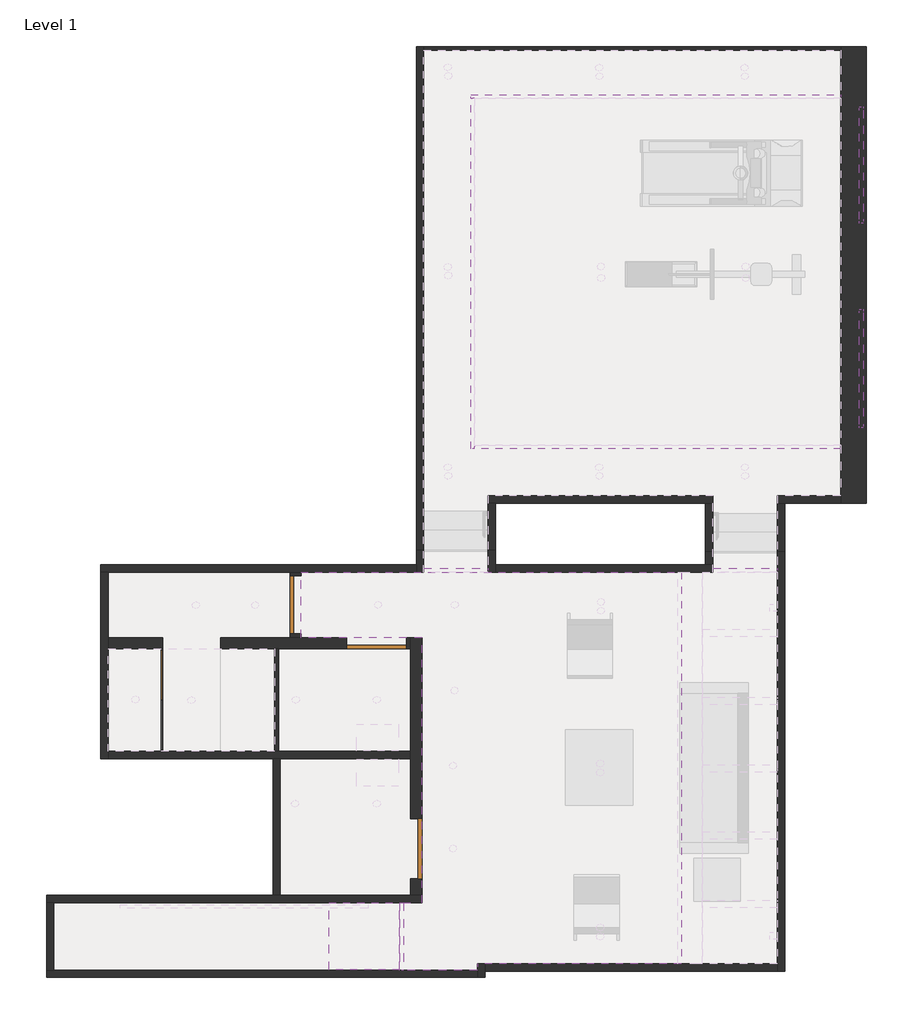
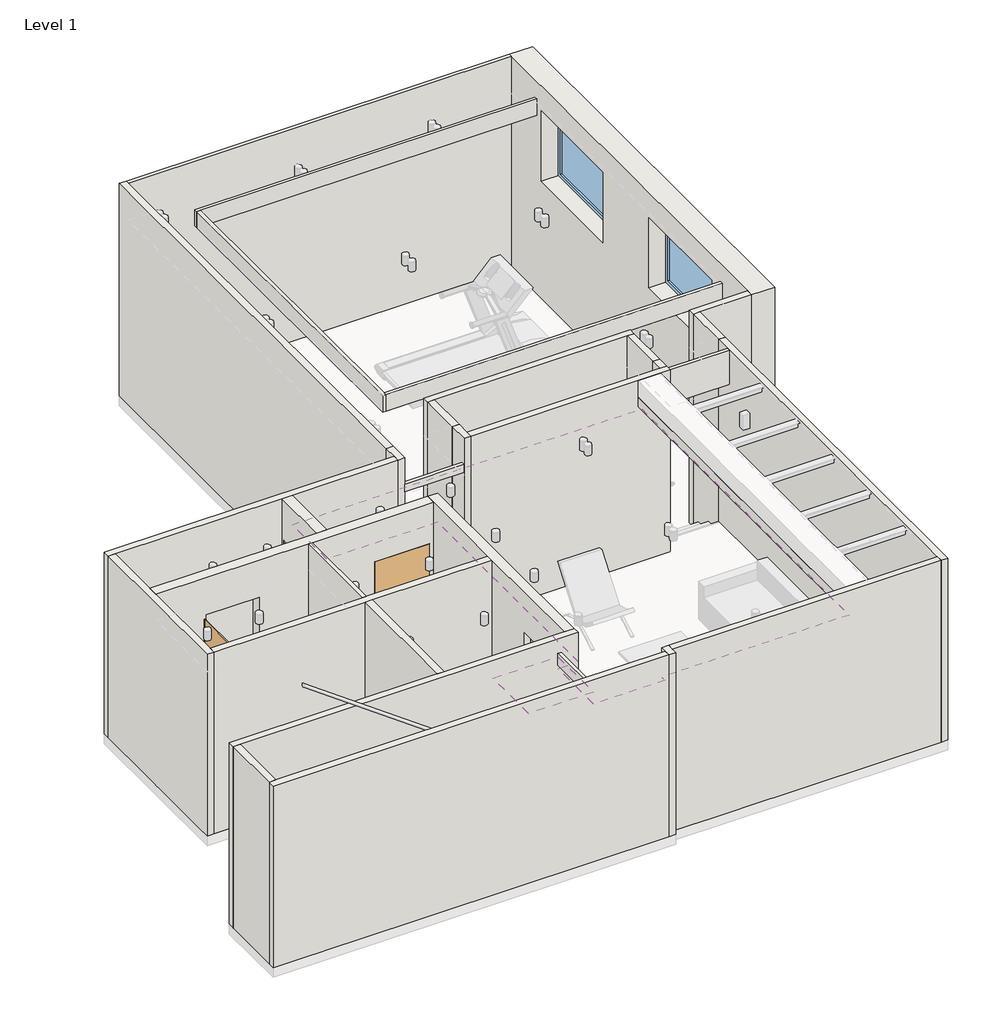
# One storey, part 1 of 2: 33 walls, 5 members, 4 doors, 2 coverings, 2 windows, 1 plate.
"""IFC4 building model written with IfcOpenShell, lengths in millimetres."""

from ifc_helpers import new_model, si_unit, point, frame, frame_2d, origin, origin_with_axes, place, context, project, spatial, polyline, circle_curve, trimmed, segment, composite_curve, outline, extrude, faceted_brep, transform, mapped, element, save
from components import door_01_type_1_045ead7d, door_01_type_1_33371314, door_01_type_2_38c6b91d, door_curtain_01_door_curtain_01_a0cef468, rectangular_mullion_20_x_20mm_65097463, rectangular_mullion_20_x_20mm_cb61bcfb, rectangular_mullion_5_x_5mm_bef206a9, system_panel_glazed_2_025f0f58, window_01_type_1_830a4720, window_01_type_2_452e2578

model = new_model("IFC4")

# Units and contexts
model_context = context("Model", 3, world=origin())
ifc_project = project(units=[si_unit("LENGTHUNIT", "METRE", prefix="MILLI")], contexts=[model_context])

# Site, building, storey
site = spatial("IfcSite", under=ifc_project)
building = spatial("IfcBuilding", under=site)
storey = spatial("IfcBuildingStorey", under=building, Name="Level 1", Elevation=0.0)

# Coverings
placement = place(None, origin())
element("IfcCovering", 1, ObjectType="Ceiling", at=placement, inside=storey, context=model_context, shape_type="SweptSolid", body=[
    extrude(outline(polyline([(-2620.2983634, 4538.2967998), (-2620.2983634, 3653.3787458), (-5069.9033731, 3653.3787458), (-5069.9033731, 4538.2967998), (-2620.2983634, 4538.2967998)]), holes=[composite_curve([segment(trimmed(circle_curve(frame_2d((-3090.2983634, 4093.3787458)), 50.0), [point((-3140.2983634, 4093.3787458))], [point((-3040.2983634, 4093.3787458))], True, "CARTESIAN"), True, "CONTINUOUS"), segment(trimmed(circle_curve(frame_2d((-3090.2983634, 4093.3787458)), 50.0), [point((-3040.2983634, 4093.3787458))], [point((-3140.2983634, 4093.3787458))], True, "CARTESIAN"), True, "CONTINUOUS")], self_intersect=False), composite_curve([segment(trimmed(circle_curve(frame_2d((-3890.2983634, 4093.3787458)), 50.0), [point((-3940.2983634, 4093.3787458))], [point((-3840.2983634, 4093.3787458))], True, "CARTESIAN"), True, "CONTINUOUS"), segment(trimmed(circle_curve(frame_2d((-3890.2983634, 4093.3787458)), 50.0), [point((-3840.2983634, 4093.3787458))], [point((-3940.2983634, 4093.3787458))], True, "CARTESIAN"), True, "CONTINUOUS")], self_intersect=False)]), frame((0.0, 0.0, 2845.0), z_axis=(0.0, 0.0, 1.0), x_axis=(1.0, 0.0, 0.0)), (0.0, 0.0, 1.0), 50.0),
    extrude(outline(polyline([(-92.4033731, -737.9532002), (-92.4033731, -822.9532002), (-1142.4033731, -822.9532002), (-1142.4033731, 85.8787458), (-842.4033731, 85.8787458), (-842.4033731, 3653.3787458), (-2470.2983634, 3653.3787458), (-2470.2983634, 4538.2967998), (2657.5966269, 4538.2967998), (2657.5966269, -737.9532002), (-92.4033731, -737.9532002)]), holes=[composite_curve([segment(trimmed(circle_curve(frame_2d((1572.5966269, 4138.2967998)), 50.0), [point((1522.5966269, 4138.2967998))], [point((1622.5966269, 4138.2967998))], True, "CARTESIAN"), True, "CONTINUOUS"), segment(trimmed(circle_curve(frame_2d((1572.5966269, 4138.2967998)), 50.0), [point((1622.5966269, 4138.2967998))], [point((1522.5966269, 4138.2967998))], True, "CARTESIAN"), True, "CONTINUOUS")], self_intersect=False), composite_curve([segment(trimmed(circle_curve(frame_2d((1572.5966269, 4018.2967998)), 50.0), [point((1522.5966269, 4018.2967998))], [point((1622.5966269, 4018.2967998))], True, "CARTESIAN"), True, "CONTINUOUS"), segment(trimmed(circle_curve(frame_2d((1572.5966269, 4018.2967998)), 50.0), [point((1622.5966269, 4018.2967998))], [point((1522.5966269, 4018.2967998))], True, "CARTESIAN"), True, "CONTINUOUS")], self_intersect=False), composite_curve([segment(trimmed(circle_curve(frame_2d((-397.4033731, 4098.2967998)), 50.0), [point((-447.4033731, 4098.2967998))], [point((-347.4033731, 4098.2967998))], True, "CARTESIAN"), True, "CONTINUOUS"), segment(trimmed(circle_curve(frame_2d((-397.4033731, 4098.2967998)), 50.0), [point((-347.4033731, 4098.2967998))], [point((-447.4033731, 4098.2967998))], True, "CARTESIAN"), True, "CONTINUOUS")], self_intersect=False), composite_curve([segment(trimmed(circle_curve(frame_2d((-1432.4033731, 4098.2967998)), 50.0), [point((-1482.4033731, 4098.2967998))], [point((-1382.4033731, 4098.2967998))], True, "CARTESIAN"), True, "CONTINUOUS"), segment(trimmed(circle_curve(frame_2d((-1432.4033731, 4098.2967998)), 50.0), [point((-1382.4033731, 4098.2967998))], [point((-1482.4033731, 4098.2967998))], True, "CARTESIAN"), True, "CONTINUOUS")], self_intersect=False), composite_curve([segment(trimmed(circle_curve(frame_2d((-402.4033731, 2943.3787458)), 50.0), [point((-452.4033731, 2943.3787458))], [point((-352.4033731, 2943.3787458))], True, "CARTESIAN"), True, "CONTINUOUS"), segment(trimmed(circle_curve(frame_2d((-402.4033731, 2943.3787458)), 50.0), [point((-352.4033731, 2943.3787458))], [point((-452.4033731, 2943.3787458))], True, "CARTESIAN"), True, "CONTINUOUS")], self_intersect=False), composite_curve([segment(trimmed(circle_curve(frame_2d((-422.4033731, 1930.1209843)), 50.0), [point((-472.4033731, 1930.1209843))], [point((-372.4033731, 1930.1209843))], True, "CARTESIAN"), True, "CONTINUOUS"), segment(trimmed(circle_curve(frame_2d((-422.4033731, 1930.1209843)), 50.0), [point((-372.4033731, 1930.1209843))], [point((-472.4033731, 1930.1209843))], True, "CARTESIAN"), True, "CONTINUOUS")], self_intersect=False), composite_curve([segment(trimmed(circle_curve(frame_2d((-422.4033731, 813.4642458)), 50.0), [point((-472.4033731, 813.4642458))], [point((-372.4033731, 813.4642458))], True, "CARTESIAN"), True, "CONTINUOUS"), segment(trimmed(circle_curve(frame_2d((-422.4033731, 813.4642458)), 50.0), [point((-372.4033731, 813.4642458))], [point((-472.4033731, 813.4642458))], True, "CARTESIAN"), True, "CONTINUOUS")], self_intersect=False), composite_curve([segment(trimmed(circle_curve(frame_2d((1562.5966269, 1958.2967998)), 50.0), [point((1512.5966269, 1958.2967998))], [point((1612.5966269, 1958.2967998))], True, "CARTESIAN"), True, "CONTINUOUS"), segment(trimmed(circle_curve(frame_2d((1562.5966269, 1958.2967998)), 50.0), [point((1612.5966269, 1958.2967998))], [point((1512.5966269, 1958.2967998))], True, "CARTESIAN"), True, "CONTINUOUS")], self_intersect=False), composite_curve([segment(trimmed(circle_curve(frame_2d((1562.5966269, 1838.2967998)), 50.0), [point((1512.5966269, 1838.2967998))], [point((1612.5966269, 1838.2967998))], True, "CARTESIAN"), True, "CONTINUOUS"), segment(trimmed(circle_curve(frame_2d((1562.5966269, 1838.2967998)), 50.0), [point((1612.5966269, 1838.2967998))], [point((1512.5966269, 1838.2967998))], True, "CARTESIAN"), True, "CONTINUOUS")], self_intersect=False), composite_curve([segment(trimmed(circle_curve(frame_2d((1562.5966269, -251.7032002)), 50.0), [point((1512.5966269, -251.7032002))], [point((1612.5966269, -251.7032002))], True, "CARTESIAN"), True, "CONTINUOUS"), segment(trimmed(circle_curve(frame_2d((1562.5966269, -251.7032002)), 50.0), [point((1612.5966269, -251.7032002))], [point((1512.5966269, -251.7032002))], True, "CARTESIAN"), True, "CONTINUOUS")], self_intersect=False), composite_curve([segment(trimmed(circle_curve(frame_2d((1562.5966269, -371.7032002)), 50.0), [point((1512.5966269, -371.7032002))], [point((1612.5966269, -371.7032002))], True, "CARTESIAN"), True, "CONTINUOUS"), segment(trimmed(circle_curve(frame_2d((1562.5966269, -371.7032002)), 50.0), [point((1612.5966269, -371.7032002))], [point((1512.5966269, -371.7032002))], True, "CARTESIAN"), True, "CONTINUOUS")], self_intersect=False)]), frame((0.0, 0.0, 2845.0), z_axis=(0.0, 0.0, 1.0), x_axis=(1.0, 0.0, 0.0)), (0.0, 0.0, 1.0), 50.0),
    extrude(outline(polyline([(-992.4033731, 3503.3787458), (-992.4033731, 2123.2967998), (-2775.2983634, 2123.2967998), (-2775.2983634, 3503.3787458), (-992.4033731, 3503.3787458)]), holes=[composite_curve([segment(trimmed(circle_curve(frame_2d((-1450.2983634, 2818.2967998)), 50.0), [point((-1500.2983634, 2818.2967998))], [point((-1400.2983634, 2818.2967998))], True, "CARTESIAN"), True, "CONTINUOUS"), segment(trimmed(circle_curve(frame_2d((-1450.2983634, 2818.2967998)), 50.0), [point((-1400.2983634, 2818.2967998))], [point((-1500.2983634, 2818.2967998))], True, "CARTESIAN"), True, "CONTINUOUS")], self_intersect=False), composite_curve([segment(trimmed(circle_curve(frame_2d((-2540.2983634, 2818.2967998)), 50.0), [point((-2590.2983634, 2818.2967998))], [point((-2490.2983634, 2818.2967998))], True, "CARTESIAN"), True, "CONTINUOUS"), segment(trimmed(circle_curve(frame_2d((-2540.2983634, 2818.2967998)), 50.0), [point((-2490.2983634, 2818.2967998))], [point((-2590.2983634, 2818.2967998))], True, "CARTESIAN"), True, "CONTINUOUS")], self_intersect=False)]), frame((0.0, 0.0, 2845.0), z_axis=(0.0, 0.0, 1.0), x_axis=(1.0, 0.0, 0.0)), (0.0, 0.0, 1.0), 50.0),
    extrude(outline(polyline([(-2750.2983634, 2023.2967998), (-992.4033731, 2023.2967998), (-992.4033731, 185.8787458), (-2750.2983634, 185.8787458), (-2750.2983634, 2023.2967998)]), holes=[composite_curve([segment(trimmed(circle_curve(frame_2d((-1450.2983634, 1418.2967998)), 50.0), [point((-1500.2983634, 1418.2967998))], [point((-1400.2983634, 1418.2967998))], True, "CARTESIAN"), True, "CONTINUOUS"), segment(trimmed(circle_curve(frame_2d((-1450.2983634, 1418.2967998)), 50.0), [point((-1400.2983634, 1418.2967998))], [point((-1500.2983634, 1418.2967998))], True, "CARTESIAN"), True, "CONTINUOUS")], self_intersect=False), composite_curve([segment(trimmed(circle_curve(frame_2d((-2552.4033731, 1418.2967998)), 50.0), [point((-2602.4033731, 1418.2967998))], [point((-2502.4033731, 1418.2967998))], True, "CARTESIAN"), True, "CONTINUOUS"), segment(trimmed(circle_curve(frame_2d((-2552.4033731, 1418.2967998)), 50.0), [point((-2502.4033731, 1418.2967998))], [point((-2602.4033731, 1418.2967998))], True, "CARTESIAN"), True, "CONTINUOUS")], self_intersect=False)]), frame((0.0, 0.0, 2845.0), z_axis=(0.0, 0.0, 1.0), x_axis=(1.0, 0.0, 0.0)), (0.0, 0.0, 1.0), 50.0),
])
element("IfcCovering", 2, ObjectType="Ceiling", at=placement, inside=storey, context=model_context, shape_type="SweptSolid", body=[
    extrude(outline(polyline([(-1142.4033731, 85.8787458), (-1142.4033731, -822.9532002), (-2093.0019919, -822.9532002), (-2093.0019919, 85.8787458), (-1142.4033731, 85.8787458)])), frame((0.0, 0.0, 3029.4421358), z_axis=(0.0, 0.0, 1.0), x_axis=(1.0, 0.0, 0.0)), (0.0, 0.0, 1.0), 50.0),
])

# Doors
door_01_type_1_shape = door_01_type_1_045ead7d(model_context)
element("IfcDoor", 3, ObjectType="Door_01 : Type 1", at=placement, inside=storey, context=model_context, shape_type="MappedRepresentation", body=[
    mapped(door_01_type_1_shape, transform((-917.4033731, 810.8787458, 480.0), x_axis=(0.0, -1.0, 0.0), y_axis=(1.0, 0.0, 0.0), z_axis=(0.0, 0.0, 1.0))),
])
door_01_type_1_2_shape = door_01_type_1_33371314(model_context)
element("IfcDoor", 4, ObjectType="Door_01 : Type 1", at=placement, inside=storey, context=model_context, shape_type="MappedRepresentation", body=[
    mapped(door_01_type_1_2_shape, transform((-1452.4033731, 3578.3787458, 480.0), x_axis=(1.0, 0.0, 0.0), y_axis=(0.0, 1.0, 0.0), z_axis=(0.0, 0.0, 1.0))),
])
door_01_type_2_shape = door_01_type_2_38c6b91d(model_context)
element("IfcDoor", 5, ObjectType="Door_01 : Type 2", at=placement, inside=storey, context=model_context, shape_type="MappedRepresentation", body=[
    mapped(door_01_type_2_shape, transform((-2545.2983634, 4100.8377728, 480.0), x_axis=(0.0, 1.0, 0.0), y_axis=(-1.0, 0.0, 0.0), z_axis=(0.0, 0.0, 1.0))),
])
door_curtain_01_door_curtain_01_shape = door_curtain_01_door_curtain_01_a0cef468(model_context)
element("IfcDoor", 6, ObjectType="Door_Curtain_01 : Door_Curtain_01", at=placement, inside=storey, context=model_context, shape_type="MappedRepresentation", body=[
    mapped(door_curtain_01_door_curtain_01_shape, transform((-4349.9033731, 3149.6082593, 500.0), x_axis=(0.0, -1.0, 0.0), y_axis=(1.0, 0.0, 0.0), z_axis=(0.0, 0.0, 1.0))),
])

# Members
rectangular_mullion_20_x_20mm_shape = rectangular_mullion_20_x_20mm_65097463(model_context)
element("IfcMember", 7, ObjectType="Rectangular Mullion : 20 x 20mm", at=placement, inside=storey, context=model_context, shape_type="MappedRepresentation", body=[
    mapped(rectangular_mullion_20_x_20mm_shape, transform((-4349.9033731, 2815.8377728, 480.0), x_axis=(0.0, 0.0, -1.0), y_axis=(1.0, 0.0, 0.0), z_axis=(0.0, -1.0, 0.0))),
])
element("IfcMember", 8, ObjectType="Rectangular Mullion : 20 x 20mm", at=placement, inside=storey, context=model_context, shape_type="MappedRepresentation", body=[
    mapped(rectangular_mullion_20_x_20mm_shape, transform((-4349.9033731, 2143.2967998, 480.0), x_axis=(0.0, 0.0, -1.0), y_axis=(1.0, 0.0, 0.0), z_axis=(0.0, -1.0, 0.0))),
])
rectangular_mullion_20_x_20mm_2_shape = rectangular_mullion_20_x_20mm_cb61bcfb(model_context)
element("IfcMember", 9, ObjectType="Rectangular Mullion : 20 x 20mm", at=placement, inside=storey, context=model_context, shape_type="MappedRepresentation", body=[
    mapped(rectangular_mullion_20_x_20mm_2_shape, transform((-4349.9033731, 3503.3787458, 480.0), x_axis=(0.0, 1.0, 0.0), y_axis=(1.0, 0.0, 0.0), z_axis=(0.0, 0.0, -1.0))),
])
element("IfcMember", 10, ObjectType="Rectangular Mullion : 20 x 20mm", at=placement, inside=storey, context=model_context, shape_type="MappedRepresentation", body=[
    mapped(rectangular_mullion_20_x_20mm_2_shape, transform((-4349.9033731, 2123.2967998, 2664.8011538), x_axis=(0.0, -1.0, 0.0), y_axis=(1.0, 0.0, 0.0), z_axis=(0.0, 0.0, 1.0))),
])
rectangular_mullion_5_x_5mm_shape = rectangular_mullion_5_x_5mm_bef206a9(model_context)
element("IfcMember", 11, ObjectType="Rectangular Mullion : 5 x 5mm", at=placement, inside=storey, context=model_context, shape_type="MappedRepresentation", body=[
    mapped(rectangular_mullion_5_x_5mm_shape, transform((-4349.9033731, 2813.3377728, 480.0), x_axis=(0.0, 1.0, 0.0), y_axis=(1.0, 0.0, 0.0), z_axis=(0.0, 0.0, -1.0))),
])

# Plate
system_panel_glazed_2_shape = system_panel_glazed_2_025f0f58(model_context)
element("IfcPlate", 12, ObjectType="System Panel : Glazed 2", at=placement, inside=storey, context=model_context, shape_type="MappedRepresentation", body=[
    mapped(system_panel_glazed_2_shape, transform((-4349.9033731, 2477.0672863, 500.0), x_axis=(0.0, 1.0, 0.0), y_axis=(-1.0, 0.0, 0.0), z_axis=(0.0, 0.0, 1.0))),
])

# Walls
element("IfcWall", 13, ObjectType="Generic - Ext 100mm", at=placement, inside=storey, context=model_context, shape_type="Brep", body=[
    faceted_brep([(4807.5966269, 5566.9439115, 0.0), (3950.0966269, 5566.9439115, 0.0), (3950.0966269, 5566.9439115, 3300.0), (4807.5966269, 5566.9439115, 3300.0), (4807.5966269, 5466.9439115, 0.0), (4807.5966269, 5466.9439115, 3300.0), (4050.0966269, 5466.9439115, 3300.0), (3950.0966269, 5466.9439115, 3300.0), (3950.0966269, 5466.9439115, 0.0), (4050.0966269, 5466.9439115, 0.0)], [[[0, 1, 2, 3]], [[4, 5, 6, 7, 8, 9]], [[1, 0, 4, 9, 8]], [[3, 2, 7, 6, 5]], [[0, 3, 5, 4]], [[2, 1, 8, 7]]]),
])
element("IfcWall", 14, ObjectType="Generic - Ext 100mm", at=placement, inside=storey, context=model_context, shape_type="Brep", body=[
    faceted_brep([(3950.0966269, 5466.9439115, 0.0), (3950.0966269, 4817.0467998, 0.0), (3950.0966269, 4817.0467998, 480.0), (3950.0966269, 4817.0467998, 3300.0), (3950.0966269, 5466.9439115, 3300.0), (4050.0966269, 5466.9439115, 0.0), (4050.0966269, 5466.9439115, 3300.0), (4050.0966269, 4817.0467998, 3300.0), (4050.0966269, 4817.0467998, 480.0), (4050.0966269, 4817.0467998, 0.0)], [[[0, 1, 2, 3, 4]], [[5, 6, 7, 8, 9]], [[1, 0, 5, 9]], [[3, 2, 1, 9, 8, 7]], [[4, 3, 7, 6]], [[0, 4, 6, 5]]]),
])
element("IfcWall", 15, ObjectType="Generic - Ext 100mm", at=placement, inside=storey, context=model_context, shape_type="SweptSolid", body=[
    extrude(outline(polyline([(7.5966269, -737.9532002), (3950.0966269, -737.9532002), (3950.0966269, -837.9532002), (7.5966269, -837.9532002), (7.5966269, -737.9532002)])), frame((0.0, 0.0, 481.2784756), z_axis=(0.0, 0.0, 1.0), x_axis=(1.0, 0.0, 0.0)), (0.0, 0.0, 1.0), 2818.7215244),
])
element("IfcWall", 16, ObjectType="Generic - Ext 100mm", at=placement, inside=storey, context=model_context, shape_type="Brep", body=[
    faceted_brep([(-92.4033731, -737.9532002, 480.0), (-92.4033731, -822.9532002, 480.0), (-92.4033731, -922.9532002, 480.0), (-92.4033731, -922.9532002, 3300.0), (-92.4033731, -822.9532002, 3300.0), (-92.4033731, -737.9532002, 3300.0), (7.5966269, -737.9532002, 480.0), (7.5966269, -737.9532002, 481.2784756), (7.5966269, -737.9532002, 3300.0), (7.5966269, -837.9532002, 3300.0), (7.5966269, -922.9532002, 3300.0), (7.5966269, -922.9532002, 480.0)], [[[0, 1, 2, 3, 4, 5]], [[6, 7, 8, 9, 10, 11]], [[2, 1, 0, 6, 11]], [[5, 4, 3, 10, 9, 8]], [[0, 5, 8, 7, 6]], [[3, 2, 11, 10]]]),
])
element("IfcWall", 17, ObjectType="Generic - Ext 100mm", at=placement, inside=storey, context=model_context, shape_type="Brep", body=[
    faceted_brep([(-92.4033731, -822.9532002, 480.0), (-5803.0019919, -822.9532002, 480.0), (-5903.0019919, -822.9532002, 480.0), (-5903.0019919, -822.9532002, 3300.0), (-5803.0019919, -822.9532002, 3300.0), (-2233.0019919, -822.9532002, 3300.0), (-2093.0019919, -822.9532002, 3300.0), (-92.4033731, -822.9532002, 3300.0), (-92.4033731, -922.9532002, 480.0), (-92.4033731, -922.9532002, 3300.0), (-5903.0019919, -922.9532002, 3300.0), (-5903.0019919, -922.9532002, 480.0)], [[[0, 1, 2, 3, 4, 5, 6, 7]], [[8, 9, 10, 11]], [[2, 1, 0, 8, 11]], [[7, 6, 5, 4, 3, 10, 9]], [[0, 7, 9, 8]], [[3, 2, 11, 10]]]),
])
element("IfcWall", 18, ObjectType="Generic - Ext 100mm", at=placement, inside=storey, context=model_context, shape_type="Brep", body=[
    faceted_brep([(-917.4033731, 11621.9439115, 0.0), (-917.4033731, 4837.0467998, 0.0), (-917.4033731, 4837.0467998, 480.0), (-917.4033731, 4837.0467998, 3300.0), (-917.4033731, 11621.9439115, 3300.0), (-817.4033731, 11621.9439115, 0.0), (-817.4033731, 11621.9439115, 3300.0), (-817.4033731, 11571.9439115, 3300.0), (-817.4033731, 4837.0467998, 3300.0), (-817.4033731, 4837.0467998, 480.0), (-817.4033731, 4837.0467998, 0.0), (-817.4033731, 11571.9439115, 0.0)], [[[0, 1, 2, 3, 4]], [[5, 6, 7, 8, 9, 10, 11]], [[1, 0, 5, 11, 10]], [[3, 2, 1, 10, 9, 8]], [[4, 3, 8, 7, 6]], [[0, 4, 6, 5]]]),
])
element("IfcWall", 19, ObjectType="Generic - Ext 100mm", at=placement, inside=storey, context=model_context, shape_type="Brep", body=[
    faceted_brep([(-917.4033731, 4638.2967998, 3300.0), (-917.4033731, 4638.2967998, 480.0), (-5169.9033731, 4638.2967998, 480.0), (-5169.9033731, 4638.2967998, 3300.0), (-917.4033731, 4538.2967998, 480.0), (-917.4033731, 4538.2967998, 3300.0), (-2470.2983634, 4538.2967998, 3300.0), (-2620.2983634, 4538.2967998, 3300.0), (-5069.9033731, 4538.2967998, 3300.0), (-5169.9033731, 4538.2967998, 3300.0), (-5169.9033731, 4538.2967998, 480.0), (-5069.9033731, 4538.2967998, 480.0), (-2620.2983634, 4538.2967998, 480.0), (-2470.2983634, 4538.2967998, 480.0)], [[[0, 1, 2, 3]], [[4, 5, 6, 7, 8, 9, 10, 11, 12, 13]], [[2, 1, 4, 13, 12, 11, 10]], [[0, 3, 9, 8, 7, 6, 5]], [[3, 2, 10, 9]], [[0, 5, 4, 1]]]),
])
element("IfcWall", 20, ObjectType="Generic - Ext 100mm", at=placement, inside=storey, context=model_context, shape_type="Brep", body=[
    faceted_brep([(-5169.9033731, 4538.2967998, 480.0), (-5169.9033731, 2023.2967998, 480.0), (-5169.9033731, 2023.2967998, 3300.0), (-5169.9033731, 4538.2967998, 3300.0), (-5069.9033731, 4538.2967998, 480.0), (-5069.9033731, 4538.2967998, 3300.0), (-5069.9033731, 3653.3787458, 3300.0), (-5069.9033731, 3503.3787458, 3300.0), (-5069.9033731, 2123.2967998, 3300.0), (-5069.9033731, 2023.2967998, 3300.0), (-5069.9033731, 2023.2967998, 480.0), (-5069.9033731, 2123.2967998, 480.0), (-5069.9033731, 3503.3787458, 480.0), (-5069.9033731, 3653.3787458, 480.0)], [[[0, 1, 2, 3]], [[4, 5, 6, 7, 8, 9, 10, 11, 12, 13]], [[1, 0, 4, 13, 12, 11, 10]], [[3, 2, 9, 8, 7, 6, 5]], [[0, 3, 5, 4]], [[2, 1, 10, 9]]]),
])
element("IfcWall", 21, ObjectType="Generic - Ext 100mm", at=placement, inside=storey, context=model_context, shape_type="Brep", body=[
    faceted_brep([(-5069.9033731, 2023.2967998, 480.0), (-2850.2983634, 2023.2967998, 480.0), (-2750.2983634, 2023.2967998, 480.0), (-992.4033731, 2023.2967998, 480.0), (-992.4033731, 2023.2967998, 3300.0), (-2750.2983634, 2023.2967998, 3300.0), (-2850.2983634, 2023.2967998, 3300.0), (-5069.9033731, 2023.2967998, 3300.0), (-5069.9033731, 2123.2967998, 480.0), (-5069.9033731, 2123.2967998, 3300.0), (-2825.2983634, 2123.2967998, 3300.0), (-2775.2983634, 2123.2967998, 3300.0), (-992.4033731, 2123.2967998, 3300.0), (-992.4033731, 2123.2967998, 480.0), (-2775.2983634, 2123.2967998, 480.0), (-2825.2983634, 2123.2967998, 480.0)], [[[0, 1, 2, 3, 4, 5, 6, 7]], [[8, 9, 10, 11, 12, 13, 14, 15]], [[3, 2, 1, 0, 8, 15, 14, 13]], [[7, 6, 5, 4, 12, 11, 10, 9]], [[0, 7, 9, 8]], [[4, 3, 13, 12]]]),
])
element("IfcWall", 22, ObjectType="Generic - Ext 100mm", at=placement, inside=storey, context=model_context, shape_type="Brep", body=[
    faceted_brep([(-917.4033731, 4837.0467998, 480.0), (-917.4033731, 4638.2967998, 480.0), (-917.4033731, 4538.2967998, 480.0), (-917.4033731, 4538.2967998, 3300.0), (-917.4033731, 4638.2967998, 3300.0), (-917.4033731, 4837.0467998, 3300.0), (-817.4033731, 4837.0467998, 480.0), (-817.4033731, 4837.0467998, 3300.0), (-817.4033731, 4538.2967998, 3300.0), (-817.4033731, 4538.2967998, 2895.0), (-817.4033731, 4538.2967998, 2776.25), (-817.4033731, 4538.2967998, 480.0)], [[[0, 1, 2, 3, 4, 5]], [[6, 7, 8, 9, 10, 11]], [[2, 1, 0, 6, 11]], [[5, 4, 3, 8, 7]], [[0, 5, 7, 6]], [[2, 11, 10, 9, 8, 3]]]),
])
element("IfcWall", 23, ObjectType="Generic - Ext 100mm", at=placement, inside=storey, context=model_context, shape_type="Brep", body=[
    faceted_brep([(3950.0966269, 4817.0467998, 480.0), (3950.0966269, -837.9532002, 480.0), (3950.0966269, -837.9532002, 481.2784756), (3950.0966269, -837.9532002, 3300.0), (3950.0966269, -737.9532002, 3300.0), (3950.0966269, 4538.2967998, 3300.0), (3950.0966269, 4588.2967998, 3300.0), (3950.0966269, 4817.0467998, 3300.0), (4050.0966269, 4817.0467998, 480.0), (4050.0966269, 4817.0467998, 3300.0), (4050.0966269, -837.9532002, 3300.0), (4050.0966269, -837.9532002, 480.0)], [[[0, 1, 2, 3, 4, 5, 6, 7]], [[8, 9, 10, 11]], [[1, 0, 8, 11]], [[7, 6, 5, 4, 3, 10, 9]], [[0, 7, 9, 8]], [[3, 2, 1, 11, 10]]]),
])
element("IfcWall", 24, ObjectType="Generic - Ext 100mm", at=placement, inside=storey, context=model_context, shape_type="SweptSolid", body=[
    extrude(outline(polyline([(-2850.2983634, 185.8787458), (-2850.2983634, 2023.2967998), (-2750.2983634, 2023.2967998), (-2750.2983634, 185.8787458), (-2850.2983634, 185.8787458)])), frame((0.0, 0.0, 480.0), z_axis=(0.0, 0.0, 1.0), x_axis=(1.0, 0.0, 0.0)), (0.0, 0.0, 1.0), 2820.0),
])
element("IfcWall", 25, ObjectType="Generic - Ext 100mm", at=placement, inside=storey, context=model_context, shape_type="SweptSolid", body=[
    extrude(outline(polyline([(-5803.0019919, 85.8787458), (-5803.0019919, -822.9532002), (-5903.0019919, -822.9532002), (-5903.0019919, 85.8787458), (-5803.0019919, 85.8787458)])), frame((0.0, 0.0, 480.0), z_axis=(0.0, 0.0, 1.0), x_axis=(1.0, 0.0, 0.0)), (0.0, 0.0, 1.0), 2820.0),
])
element("IfcWall", 26, ObjectType="Generic - Ext 340mm", at=placement, inside=storey, context=model_context, shape_type="Brep", body=[
    faceted_brep([(4807.5966269, 11621.9439115, 0.0), (4807.5966269, 11571.9439115, 0.0), (4807.5966269, 5566.9439115, 0.0), (4807.5966269, 5466.9439115, 0.0), (4807.5966269, 5466.9439115, 3300.0), (4807.5966269, 5566.9439115, 3300.0), (4807.5966269, 11571.9439115, 3300.0), (4807.5966269, 11621.9439115, 3300.0), (4807.5966269, 10812.4808045, 1820.0), (4807.5966269, 10812.4808045, 2910.0), (4807.5966269, 9242.4808045, 2910.0), (4807.5966269, 9242.4808045, 1820.0), (4807.5966269, 8082.4808045, 1820.0), (4807.5966269, 8082.4808045, 2910.0), (4807.5966269, 6482.4808045, 2910.0), (4807.5966269, 6482.4808045, 1820.0), (5147.5966269, 5466.9439115, 0.0), (5147.5966269, 11621.9439115, 0.0), (5147.5966269, 11621.9439115, 3300.0), (5147.5966269, 5466.9439115, 3300.0), (5147.5966269, 10812.4808045, 2910.0), (5147.5966269, 10812.4808045, 1820.0), (5147.5966269, 9242.4808045, 1820.0), (5147.5966269, 9242.4808045, 2910.0), (5147.5966269, 8082.4808045, 2910.0), (5147.5966269, 8082.4808045, 1820.0), (5147.5966269, 6482.4808045, 1820.0), (5147.5966269, 6482.4808045, 2910.0)], [[[0, 1, 2, 3, 4, 5, 6, 7], [8, 9, 10, 11], [12, 13, 14, 15]], [[16, 17, 18, 19], [20, 21, 22, 23], [24, 25, 26, 27]], [[3, 2, 1, 0, 17, 16]], [[7, 6, 5, 4, 19, 18]], [[4, 3, 16, 19]], [[20, 9, 8, 21]], [[21, 8, 11, 22]], [[22, 11, 10, 23]], [[9, 20, 23, 10]], [[25, 24, 13, 12]], [[26, 25, 12, 15]], [[27, 26, 15, 14]], [[24, 27, 14, 13]], [[0, 7, 18, 17]]]),
])
element("IfcWall", 27, ObjectType="Generic - Int 100mm", at=placement, inside=storey, context=model_context, shape_type="Brep", body=[
    faceted_brep([(-5903.0019919, 85.8787458, 480.0), (-5803.0019919, 85.8787458, 480.0), (-842.4033731, 85.8787458, 480.0), (-842.4033731, 85.8787458, 3300.0), (-5803.0019919, 85.8787458, 3300.0), (-5903.0019919, 85.8787458, 3300.0), (-5903.0019919, 185.8787458, 480.0), (-5903.0019919, 185.8787458, 3300.0), (-2850.2983634, 185.8787458, 3300.0), (-2750.2983634, 185.8787458, 3300.0), (-992.4033731, 185.8787458, 3300.0), (-842.4033731, 185.8787458, 3300.0), (-842.4033731, 185.8787458, 480.0), (-992.4033731, 185.8787458, 480.0), (-2750.2983634, 185.8787458, 480.0), (-2850.2983634, 185.8787458, 480.0)], [[[0, 1, 2, 3, 4, 5]], [[6, 7, 8, 9, 10, 11, 12, 13, 14, 15]], [[2, 1, 0, 6, 15, 14, 13, 12]], [[5, 4, 3, 11, 10, 9, 8, 7]], [[3, 2, 12, 11]], [[0, 5, 7, 6]]]),
])
element("IfcWall", 28, ObjectType="Generic - Int 100mm", at=placement, inside=storey, context=model_context, shape_type="Brep", body=[
    faceted_brep([(3082.5966269, 5566.9439115, 0.0), (52.5966269, 5566.9439115, 0.0), (52.5966269, 5566.9439115, 3300.0), (3082.5966269, 5566.9439115, 3300.0), (3082.5966269, 5466.9439115, 0.0), (3082.5966269, 5466.9439115, 3300.0), (2982.5966269, 5466.9439115, 3300.0), (152.5966269, 5466.9439115, 3300.0), (52.5966269, 5466.9439115, 3300.0), (52.5966269, 5466.9439115, 0.0), (152.5966269, 5466.9439115, 0.0), (2982.5966269, 5466.9439115, 0.0)], [[[0, 1, 2, 3]], [[4, 5, 6, 7, 8, 9, 10, 11]], [[1, 0, 4, 11, 10, 9]], [[3, 2, 8, 7, 6, 5]], [[2, 1, 9, 8]], [[0, 3, 5, 4]]]),
])
element("IfcWall", 29, ObjectType="Generic - Int 100mm", at=placement, inside=storey, context=model_context, shape_type="Brep", body=[
    faceted_brep([(52.5966269, 5466.9439115, 0.0), (52.5966269, 4837.0467998, 0.0), (52.5966269, 4837.0467998, 480.0), (52.5966269, 4837.0467998, 3300.0), (52.5966269, 5466.9439115, 3300.0), (152.5966269, 5466.9439115, 0.0), (152.5966269, 5466.9439115, 3300.0), (152.5966269, 4837.0467998, 3300.0), (152.5966269, 4837.0467998, 480.0), (152.5966269, 4837.0467998, 0.0)], [[[0, 1, 2, 3, 4]], [[5, 6, 7, 8, 9]], [[1, 0, 5, 9]], [[3, 2, 1, 9, 8, 7]], [[4, 3, 7, 6]], [[0, 4, 6, 5]]]),
])
element("IfcWall", 30, ObjectType="Generic - Int 100mm", at=placement, inside=storey, context=model_context, shape_type="Brep", body=[
    faceted_brep([(152.5966269, 4538.2967998, 3300.0), (152.5966269, 4538.2967998, 480.0), (3082.5966269, 4538.2967998, 480.0), (3082.5966269, 4538.2967998, 2776.25), (3082.5966269, 4538.2967998, 3300.0), (152.5966269, 4638.2967998, 480.0), (152.5966269, 4638.2967998, 3300.0), (2982.5966269, 4638.2967998, 3300.0), (3082.5966269, 4638.2967998, 3300.0), (3082.5966269, 4638.2967998, 480.0), (2982.5966269, 4638.2967998, 480.0), (3082.5966269, 4588.2967998, 3300.0)], [[[0, 1, 2, 3, 4]], [[5, 6, 7, 8, 9, 10]], [[2, 1, 5, 10, 9]], [[0, 4, 11, 8, 7, 6]], [[0, 6, 5, 1]], [[2, 9, 8, 11, 4, 3]]]),
])
element("IfcWall", 31, ObjectType="Generic - Int 100mm", at=placement, inside=storey, context=model_context, shape_type="SweptSolid", body=[
    extrude(outline(polyline([(3082.5966269, 4817.0467998), (3082.5966269, 4638.2967998), (2982.5966269, 4638.2967998), (2982.5966269, 4817.0467998), (3082.5966269, 4817.0467998)])), frame((0.0, 0.0, 480.0), z_axis=(0.0, 0.0, 1.0), x_axis=(1.0, 0.0, 0.0)), (0.0, 0.0, 1.0), 2820.0),
])
element("IfcWall", 32, ObjectType="Generic - Int 100mm", at=placement, inside=storey, context=model_context, shape_type="Brep", body=[
    faceted_brep([(52.5966269, 4837.0467998, 480.0), (52.5966269, 4538.2967998, 480.0), (52.5966269, 4538.2967998, 2776.25), (52.5966269, 4538.2967998, 2895.0), (52.5966269, 4538.2967998, 3300.0), (52.5966269, 4837.0467998, 3300.0), (152.5966269, 4837.0467998, 480.0), (152.5966269, 4837.0467998, 3300.0), (152.5966269, 4638.2967998, 3300.0), (152.5966269, 4538.2967998, 3300.0), (152.5966269, 4538.2967998, 480.0), (152.5966269, 4638.2967998, 480.0)], [[[0, 1, 2, 3, 4, 5]], [[6, 7, 8, 9, 10, 11]], [[1, 0, 6, 11, 10]], [[5, 4, 9, 8, 7]], [[0, 5, 7, 6]], [[1, 10, 9, 4, 3, 2]]]),
])
element("IfcWall", 33, ObjectType="Generic - Int 100mm", at=placement, inside=storey, context=model_context, shape_type="Brep", body=[
    faceted_brep([(3082.5966269, 4817.0467998, 0.0), (3082.5966269, 5466.9439115, 0.0), (3082.5966269, 5466.9439115, 3300.0), (3082.5966269, 4817.0467998, 3300.0), (3082.5966269, 4817.0467998, 480.0), (2982.5966269, 4817.0467998, 0.0), (2982.5966269, 4817.0467998, 480.0), (2982.5966269, 4817.0467998, 3300.0), (2982.5966269, 5466.9439115, 3300.0), (2982.5966269, 5466.9439115, 0.0)], [[[0, 1, 2, 3, 4]], [[5, 6, 7, 8, 9]], [[1, 0, 5, 9]], [[3, 2, 8, 7]], [[0, 4, 3, 7, 6, 5]], [[2, 1, 9, 8]]]),
])
element("IfcWall", 34, ObjectType="Generic - Int 150mm", at=placement, inside=storey, context=model_context, shape_type="Brep", body=[
    faceted_brep([(-842.4033731, 3653.3787458, 3300.0), (-842.4033731, 185.8787458, 3300.0), (-842.4033731, 185.8787458, 480.0), (-842.4033731, 405.8787458, 480.0), (-842.4033731, 405.8787458, 2680.0), (-842.4033731, 1215.8787458, 2680.0), (-842.4033731, 1215.8787458, 480.0), (-842.4033731, 3653.3787458, 480.0), (-992.4033731, 185.8787458, 3300.0), (-992.4033731, 2023.2967998, 3300.0), (-992.4033731, 2123.2967998, 3300.0), (-992.4033731, 3503.3787458, 3300.0), (-992.4033731, 3653.3787458, 3300.0), (-992.4033731, 3653.3787458, 480.0), (-992.4033731, 3503.3787458, 480.0), (-992.4033731, 2123.2967998, 480.0), (-992.4033731, 2023.2967998, 480.0), (-992.4033731, 1215.8787458, 480.0), (-992.4033731, 1215.8787458, 2680.0), (-992.4033731, 405.8787458, 2680.0), (-992.4033731, 405.8787458, 480.0), (-992.4033731, 185.8787458, 480.0)], [[[0, 1, 2, 3, 4, 5, 6, 7]], [[8, 9, 10, 11, 12, 13, 14, 15, 16, 17, 18, 19, 20, 21]], [[2, 21, 20, 3]], [[13, 7, 6, 17, 16, 15, 14]], [[1, 0, 12, 11, 10, 9, 8]], [[2, 1, 8, 21]], [[0, 7, 13, 12]], [[19, 4, 3, 20]], [[4, 19, 18, 5]], [[5, 18, 17, 6]]]),
])
element("IfcWall", 35, ObjectType="Generic - Int 150mm", at=placement, inside=storey, context=model_context, shape_type="Brep", body=[
    faceted_brep([(-5069.9033731, 3653.3787458, 3300.0), (-2620.2983634, 3653.3787458, 3300.0), (-2470.2983634, 3653.3787458, 3300.0), (-992.4033731, 3653.3787458, 3300.0), (-992.4033731, 3653.3787458, 480.0), (-1047.4033731, 3653.3787458, 480.0), (-1047.4033731, 3653.3787458, 2680.0), (-1857.4033731, 3653.3787458, 2680.0), (-1857.4033731, 3653.3787458, 480.0), (-2470.2983634, 3653.3787458, 480.0), (-2620.2983634, 3653.3787458, 480.0), (-3553.7497862, 3653.3787458, 480.0), (-3553.7497862, 3653.3787458, 2726.3809147), (-4337.4007708, 3653.3787458, 2726.3809147), (-4337.4007708, 3653.3787458, 480.0), (-5069.9033731, 3653.3787458, 480.0), (-992.4033731, 3503.3787458, 3300.0), (-2775.2983634, 3503.3787458, 3300.0), (-2825.2983634, 3503.3787458, 3300.0), (-5069.9033731, 3503.3787458, 3300.0), (-5069.9033731, 3503.3787458, 480.0), (-4337.4007708, 3503.3787458, 480.0), (-4337.4007708, 3503.3787458, 2726.3809147), (-3553.7497862, 3503.3787458, 2726.3809147), (-3553.7497862, 3503.3787458, 480.0), (-2825.2983634, 3503.3787458, 480.0), (-2775.2983634, 3503.3787458, 480.0), (-1857.4033731, 3503.3787458, 480.0), (-1857.4033731, 3503.3787458, 2680.0), (-1047.4033731, 3503.3787458, 2680.0), (-1047.4033731, 3503.3787458, 480.0), (-992.4033731, 3503.3787458, 480.0)], [[[0, 1, 2, 3, 4, 5, 6, 7, 8, 9, 10, 11, 12, 13, 14, 15]], [[16, 17, 18, 19, 20, 21, 22, 23, 24, 25, 26, 27, 28, 29, 30, 31]], [[4, 3, 16, 31]], [[0, 15, 20, 19]], [[29, 6, 5, 30]], [[6, 29, 28, 7]], [[7, 28, 27, 8]], [[4, 31, 30, 5]], [[24, 11, 10, 9, 8, 27, 26, 25]], [[3, 2, 1, 0, 19, 18, 17, 16]], [[12, 11, 24, 23]], [[13, 12, 23, 22]], [[14, 13, 22, 21]], [[15, 14, 21, 20]]]),
])
element("IfcWall", 36, ObjectType="Generic - Int 150mm", at=placement, inside=storey, context=model_context, shape_type="SweptSolid", body=[
    extrude(outline(polyline([(3653.3787458, 3300.0), (4538.2967998, 3300.0), (4538.2967998, 480.0), (4490.8377728, 480.0), (4490.8377728, 2680.0), (3710.8377728, 2680.0), (3710.8377728, 480.0), (3653.3787458, 480.0), (3653.3787458, 3300.0)])), frame((-2620.2983634, 0.0, 0.0), z_axis=(1.0, 0.0, 0.0), x_axis=(0.0, 1.0, 0.0)), (0.0, 0.0, 1.0), 150.0),
])
element("IfcWall", 37, ObjectType="Generic - Int 50mm", at=placement, inside=storey, context=model_context, shape_type="SweptSolid", body=[
    extrude(outline(polyline([(-2825.2983634, 2123.2967998), (-2825.2983634, 3503.3787458), (-2775.2983634, 3503.3787458), (-2775.2983634, 2123.2967998), (-2825.2983634, 2123.2967998)])), frame((0.0, 0.0, 480.0), z_axis=(0.0, 0.0, 1.0), x_axis=(1.0, 0.0, 0.0)), (0.0, 0.0, 1.0), 2820.0),
])
element("IfcWall", 38, ObjectType="Generic - Int 50mm", at=placement, inside=storey, context=model_context, shape_type="Brep", body=[
    faceted_brep([(4807.5966269, 10971.9439115, 2776.3), (-182.4033731, 10971.9439115, 2776.3), (-182.4033731, 10971.9439115, 3030.1), (4807.5966269, 10971.9439115, 3030.1), (4807.5966269, 10921.9439115, 2776.3), (4807.5966269, 10921.9439115, 3030.1), (-132.4033731, 10921.9439115, 3030.1), (-182.4033731, 10921.9439115, 3030.1), (-182.4033731, 10921.9439115, 2776.3), (-132.4033731, 10921.9439115, 2776.3)], [[[0, 1, 2, 3]], [[4, 5, 6, 7, 8, 9]], [[1, 0, 4, 9, 8]], [[3, 2, 7, 6, 5]], [[0, 3, 5, 4]], [[2, 1, 8, 7]]]),
])
element("IfcWall", 39, ObjectType="Generic - Int 50mm", at=placement, inside=storey, context=model_context, shape_type="Brep", body=[
    faceted_brep([(-182.4033731, 10921.9439115, 2776.3), (-182.4033731, 6201.9439115, 2776.3), (-182.4033731, 6201.9439115, 3030.1), (-182.4033731, 10921.9439115, 3030.1), (-132.4033731, 10921.9439115, 2776.3), (-132.4033731, 10921.9439115, 3030.1), (-132.4033731, 6251.9439115, 3030.1), (-132.4033731, 6201.9439115, 3030.1), (-132.4033731, 6201.9439115, 2776.3), (-132.4033731, 6251.9439115, 2776.3)], [[[0, 1, 2, 3]], [[4, 5, 6, 7, 8, 9]], [[1, 0, 4, 9, 8]], [[3, 2, 7, 6, 5]], [[0, 3, 5, 4]], [[2, 1, 8, 7]]]),
])
element("IfcWall", 40, ObjectType="Generic - Int 50mm", at=placement, inside=storey, context=model_context, shape_type="SweptSolid", body=[
    extrude(outline(polyline([(4807.5966269, 6201.9439115), (-132.4033731, 6201.9439115), (-132.4033731, 6251.9439115), (4807.5966269, 6251.9439115), (4807.5966269, 6201.9439115)])), frame((0.0, 0.0, 2776.25), z_axis=(0.0, 0.0, 1.0), x_axis=(1.0, 0.0, 0.0)), (0.0, 0.0, 1.0), 253.75),
])
element("IfcWall", 41, ObjectType="Generic - Int 50mm", at=placement, inside=storey, context=model_context, shape_type="SweptSolid", body=[
    extrude(outline(polyline([(52.5966269, 4538.2967998), (-817.4033731, 4538.2967998), (-817.4033731, 4588.2967998), (52.5966269, 4588.2967998), (52.5966269, 4538.2967998)])), frame((0.0, 0.0, 2776.25), z_axis=(0.0, 0.0, 1.0), x_axis=(1.0, 0.0, 0.0)), (0.0, 0.0, 1.0), 118.75),
])
element("IfcWall", 42, ObjectType="Generic - Int 50mm", at=placement, inside=storey, context=model_context, shape_type="SweptSolid", body=[
    extrude(outline(polyline([(3950.0966269, 4538.2967998), (3082.5966269, 4538.2967998), (3082.5966269, 4588.2967998), (3950.0966269, 4588.2967998), (3950.0966269, 4538.2967998)])), frame((0.0, 0.0, 2776.25), z_axis=(0.0, 0.0, 1.0), x_axis=(1.0, 0.0, 0.0)), (0.0, 0.0, 1.0), 523.75),
])
element("IfcWall", 43, ObjectType="Generic - Int 50mm", at=placement, inside=storey, context=model_context, shape_type="SweptSolid", body=[
    extrude(outline(polyline([(2607.5966269, -737.9532002), (2607.5966269, 4538.2967998), (2657.5966269, 4538.2967998), (2657.5966269, -737.9532002), (2607.5966269, -737.9532002)])), frame((0.0, 0.0, 2895.0), z_axis=(0.0, 0.0, 1.0), x_axis=(1.0, 0.0, 0.0)), (0.0, 0.0, 1.0), 150.0),
])
element("IfcWall", 44, ObjectType="Generic - Int 50mm", at=placement, inside=storey, context=model_context, shape_type="SweptSolid", body=[
    extrude(outline(polyline([(-1092.4033731, 85.8787458), (-1092.4033731, -822.9532002), (-1142.4033731, -822.9532002), (-1142.4033731, 85.8787458), (-1092.4033731, 85.8787458)])), frame((0.0, 0.0, 2895.0), z_axis=(0.0, 0.0, 1.0), x_axis=(1.0, 0.0, 0.0)), (0.0, 0.0, 1.0), 184.7893516),
])
element("IfcWall", 45, ObjectType="Generic - Int 50mm", at=placement, inside=storey, context=model_context, shape_type="SweptSolid", body=[
    extrude(outline(polyline([(-817.4033731, 11621.9439115), (4807.5966269, 11621.9439115), (4807.5966269, 11571.9439115), (-817.4033731, 11571.9439115), (-817.4033731, 11621.9439115)])), origin_with_axes(), (0.0, 0.0, 1.0), 3300.0),
])

# Windows
window_01_type_1_shape = window_01_type_1_830a4720(model_context)
element("IfcWindow", 46, ObjectType="Window_01 : Type 1", at=placement, inside=storey, context=model_context, shape_type="MappedRepresentation", body=[
    mapped(window_01_type_1_shape, transform((4977.5966269, 10027.4808045, 905.6), x_axis=(0.0, 1.0, 0.0), y_axis=(-1.0, 0.0, 0.0), z_axis=(0.0, 0.0, 1.0))),
])
window_01_type_2_shape = window_01_type_2_452e2578(model_context)
element("IfcWindow", 47, ObjectType="Window_01 : Type 2", at=placement, inside=storey, context=model_context, shape_type="MappedRepresentation", body=[
    mapped(window_01_type_2_shape, transform((4977.5966269, 7282.4808045, 905.6), x_axis=(0.0, 1.0, 0.0), y_axis=(-1.0, 0.0, 0.0), z_axis=(0.0, 0.0, 1.0))),
])

save(model, "model.ifc")
